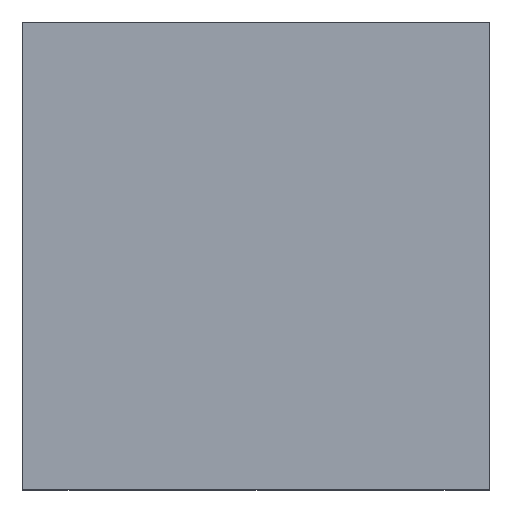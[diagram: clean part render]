
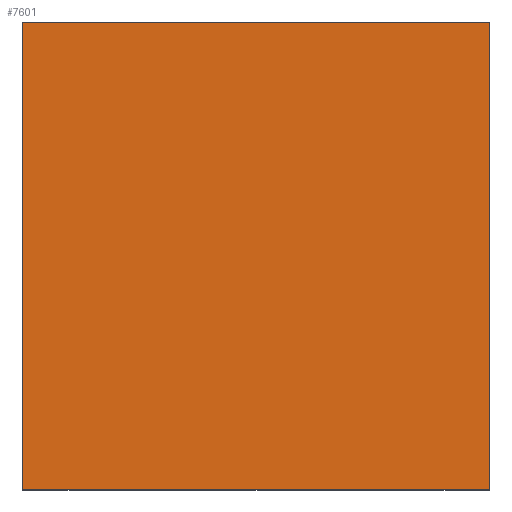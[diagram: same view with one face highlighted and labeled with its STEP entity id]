
A CAD part, top view. The second image highlights one B-rep face of the part: STEP entity #7601.
In plain terms, the highlighted free-form (B-spline) face has degree [1, 1] with [2, 2] control points.
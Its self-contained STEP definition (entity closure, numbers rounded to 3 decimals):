
#7503 = VERTEX_POINT('',#7504);
#7504 = CARTESIAN_POINT('',(0.5,-0.5,0.35));
#7509 = EDGE_CURVE('',#7510,#7503,#7512,.T.);
#7510 = VERTEX_POINT('',#7511);
#7511 = CARTESIAN_POINT('',(-0.5,-0.5,0.35));
#7512 = B_SPLINE_CURVE_WITH_KNOTS('',1,(#7513,#7514),.UNSPECIFIED.,.F.,
  .F.,(2,2),(0.,1.),.PIECEWISE_BEZIER_KNOTS.);
#7513 = CARTESIAN_POINT('',(-0.5,-0.5,0.35));
#7514 = CARTESIAN_POINT('',(0.5,-0.5,0.35));
#7537 = VERTEX_POINT('',#7538);
#7538 = CARTESIAN_POINT('',(0.5,0.5,0.35));
#7543 = EDGE_CURVE('',#7503,#7537,#7544,.T.);
#7544 = B_SPLINE_CURVE_WITH_KNOTS('',1,(#7545,#7546),.UNSPECIFIED.,.F.,
  .F.,(2,2),(0.,1.),.PIECEWISE_BEZIER_KNOTS.);
#7545 = CARTESIAN_POINT('',(0.5,-0.5,0.35));
#7546 = CARTESIAN_POINT('',(0.5,0.5,0.35));
#7565 = VERTEX_POINT('',#7566);
#7566 = CARTESIAN_POINT('',(-0.5,0.5,0.35));
#7571 = EDGE_CURVE('',#7537,#7565,#7572,.T.);
#7572 = B_SPLINE_CURVE_WITH_KNOTS('',1,(#7573,#7574),.UNSPECIFIED.,.F.,
  .F.,(2,2),(0.,1.),.PIECEWISE_BEZIER_KNOTS.);
#7573 = CARTESIAN_POINT('',(0.5,0.5,0.35));
#7574 = CARTESIAN_POINT('',(-0.5,0.5,0.35));
#7591 = EDGE_CURVE('',#7565,#7510,#7592,.T.);
#7592 = B_SPLINE_CURVE_WITH_KNOTS('',1,(#7593,#7594),.UNSPECIFIED.,.F.,
  .F.,(2,2),(0.,1.),.PIECEWISE_BEZIER_KNOTS.);
#7593 = CARTESIAN_POINT('',(-0.5,0.5,0.35));
#7594 = CARTESIAN_POINT('',(-0.5,-0.5,0.35));
#7601 = ADVANCED_FACE('',(#7602),#7608,.T.);
#7602 = FACE_BOUND('',#7603,.T.);
#7603 = EDGE_LOOP('',(#7604,#7605,#7606,#7607));
#7604 = ORIENTED_EDGE('',*,*,#7509,.T.);
#7605 = ORIENTED_EDGE('',*,*,#7543,.T.);
#7606 = ORIENTED_EDGE('',*,*,#7571,.T.);
#7607 = ORIENTED_EDGE('',*,*,#7591,.T.);
#7608 = B_SPLINE_SURFACE_WITH_KNOTS('',1,1,(
    (#7609,#7610)
    ,(#7611,#7612
    )),.UNSPECIFIED.,.F.,.F.,.F.,(2,2),(2,2),(-0.5,0.5),(-0.5,0.5),
  .PIECEWISE_BEZIER_KNOTS.);
#7609 = CARTESIAN_POINT('',(0.5,-0.5,0.35));
#7610 = CARTESIAN_POINT('',(-0.5,-0.5,0.35));
#7611 = CARTESIAN_POINT('',(0.5,0.5,0.35));
#7612 = CARTESIAN_POINT('',(-0.5,0.5,0.35));
